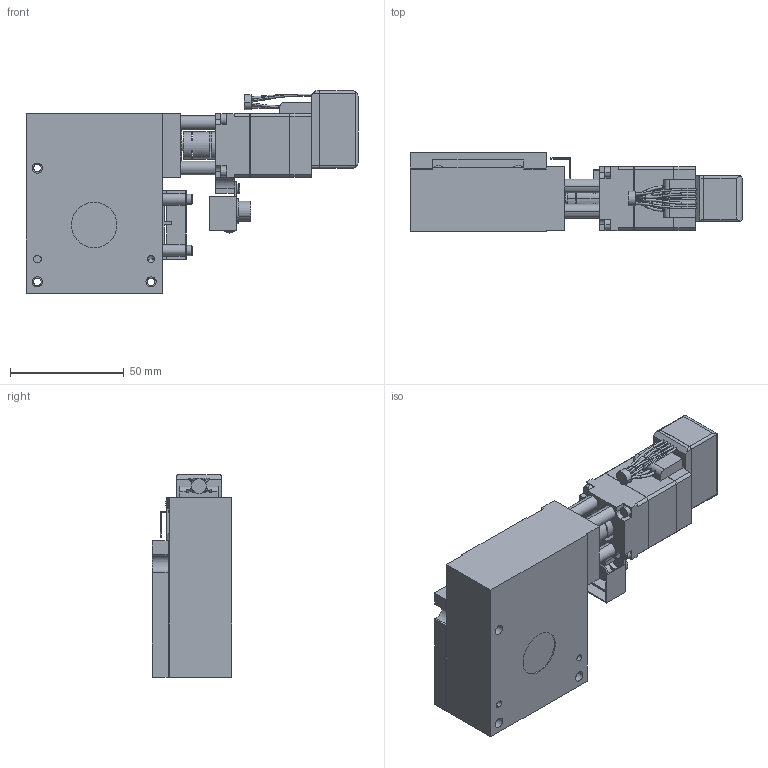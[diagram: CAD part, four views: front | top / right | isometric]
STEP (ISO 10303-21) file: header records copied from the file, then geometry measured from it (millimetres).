
FILE_DESCRIPTION (( 'STEP AP203' ), '1' );
FILE_NAME ('KRB06011MS-LZA.STEP', '2024-03-25T08:34:03', ( '' ), ( '' ), 'SwSTEP 2.0', 'SolidWorks 2017', '' );
FILE_SCHEMA (( 'CONFIG_CONTROL_DESIGN' ));
Length unit declared in the file: millimetre
Products named in the file (4): KRB-TOP-06-S-L; KRB-06-ZA-L; KRB-BASE-06-SL; KRB06011MS-LZA
Assembly tree (3 placements, depth 2):
  KRB06011MS-LZA
    KRB-BASE-06-SL
    KRB-TOP-06-S-L
    KRB-06-ZA-L
Bounding box: 146 x 35 x 89 mm (x, y, z)
Volume: 210467.6 mm3; surface area: 51186.4 mm2
Topology: 3 solids, 21 shells, 584 faces, 1488 edges, 956 vertices
Faces by surface type: plane 242, cylinder 240, torus 48, cone 44, bspline 10
Entity records: 18562 total; most frequent: CARTESIAN_POINT 3565, DIRECTION 3215, ORIENTED_EDGE 2932, EDGE_CURVE 1466, AXIS2_PLACEMENT_3D 1222, VERTEX_POINT 956, LINE 771, VECTOR 771
